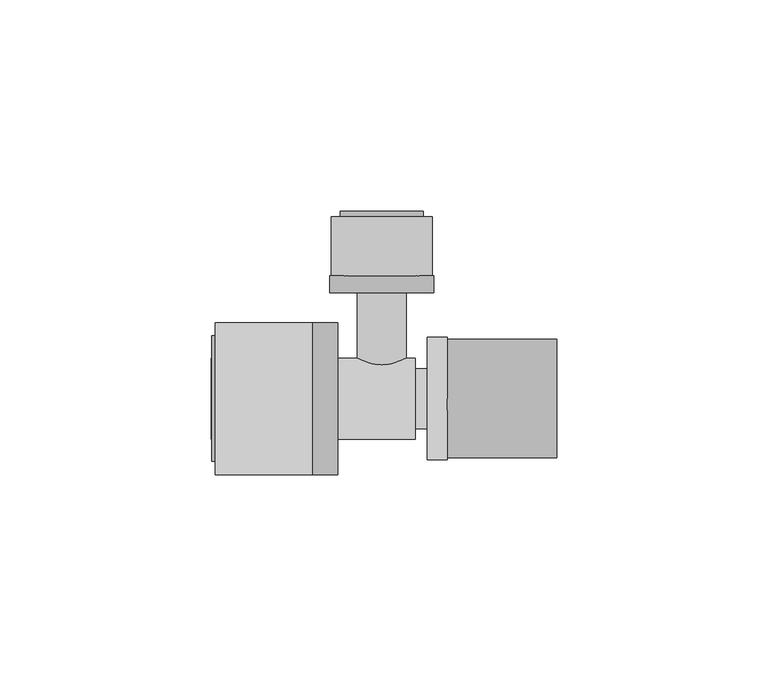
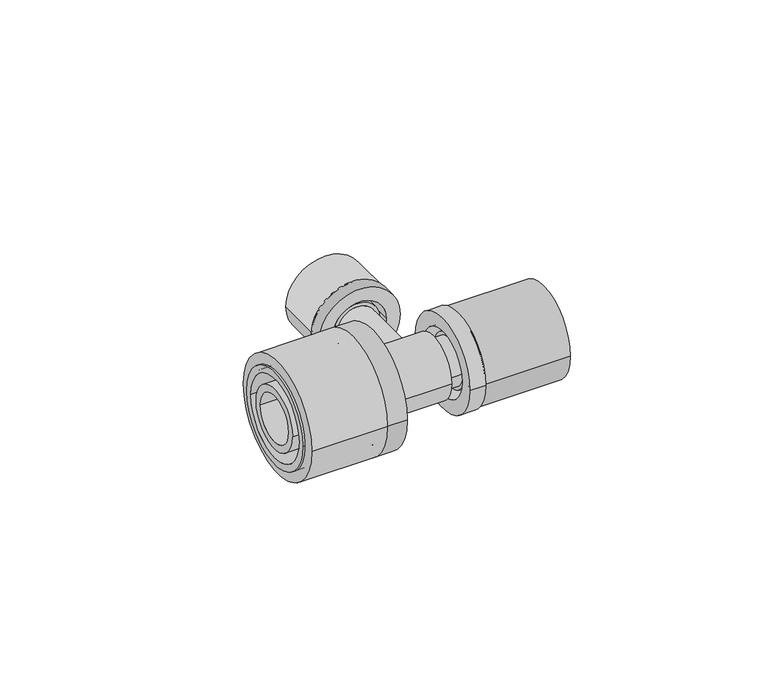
"""IFC4 building model written with IfcOpenShell, lengths in millimetres: pipe fitting geometry, FASTLOC_T-piece_EX+ : FSL T-Piece EX+ AT."""

import ifcopenshell
import ifcopenshell.guid

model = None  # the IFC model being written
_history = None  # IfcOwnerHistory: only IFC2X3 demands one
_inside = {}  # id of a spatial element -> (the spatial element, [elements in it])
_under = {}  # id of a project, library or spatial element -> (it, [spatial elements below it])
_declared = {}  # id of a project -> (the project, [libraries it declares])
_typed = {}  # id of a type object -> (the type object, [elements of that type])
_made_of = {}  # id of a material, layer set ... -> (it, [elements and type objects made of it])


def new_model(schema):
    """Start an empty IFC model of exactly this schema.

    Asked for "IFC4X3", IfcOpenShell would pick the latest addendum, in which some entities
    have other attributes; the version numbers below select the first issue.
    IFC2X3 requires an IfcOwnerHistory on every rooted entity: one is made here for all.
    """
    global model, _history
    if schema == "IFC4X3":
        model = ifcopenshell.file(schema_version=(4, 3, 0, 0))
    else:
        model = ifcopenshell.file(schema=schema)
    _inside.clear()
    _under.clear()
    _declared.clear()
    _typed.clear()
    _made_of.clear()
    _history = None
    if model.schema == "IFC2X3":
        org = make("IfcOrganization", Name="unknown")
        user = make(
            "IfcPersonAndOrganization",
            ThePerson=make("IfcPerson", FamilyName="unknown"),
            TheOrganization=org,
        )
        app = make(
            "IfcApplication",
            ApplicationDeveloper=org,
            Version="unknown",
            ApplicationFullName="unknown",
            ApplicationIdentifier="unknown",
        )
        _history = make(
            "IfcOwnerHistory",
            OwningUser=user,
            OwningApplication=app,
            ChangeAction="ADDED",
            CreationDate=0,
        )
    return model


def make(cls, **values):
    """One entity of the class cls with the attributes given. An attribute that is None is left unset."""
    return model.create_entity(
        cls, **{name: value for name, value in values.items() if value is not None}
    )


def rooted(cls, **values):
    """An entity with a GlobalId (a new one), such as an element, a storey or a relation."""
    return make(cls, GlobalId=ifcopenshell.guid.new(), OwnerHistory=_history, **values)


def si_unit(unit_type, name, prefix=None):
    """IfcSIUnit, for example si_unit("LENGTHUNIT", "METRE", prefix="MILLI")."""
    return make("IfcSIUnit", UnitType=unit_type, Prefix=prefix, Name=name)


def assignment(units):
    """IfcUnitAssignment: the units of a project."""
    return None if units is None else make("IfcUnitAssignment", Units=units)


def point(xyz):
    """IfcCartesianPoint."""
    return None if xyz is None else make("IfcCartesianPoint", Coordinates=xyz)


def direction(xyz):
    """IfcDirection."""
    return None if xyz is None else make("IfcDirection", DirectionRatios=xyz)


def frame(location, z_axis=None, x_axis=None):
    """IfcAxis2Placement3D, a coordinate frame: its origin and axes. An axis left out is left unset."""
    return make(
        "IfcAxis2Placement3D",
        Location=point(location),
        Axis=direction(z_axis),
        RefDirection=direction(x_axis),
    )


def frame_2d(location, x_axis=None):
    """IfcAxis2Placement2D, a coordinate frame in the plane: its origin and x axis."""
    return make(
        "IfcAxis2Placement2D", Location=point(location), RefDirection=direction(x_axis)
    )


def origin():
    """The frame at (0, 0, 0) with its axes left unset."""
    return frame((0.0, 0.0, 0.0))


def origin_2d():
    """The frame at (0, 0) in the plane with its x axis left unset."""
    return frame_2d((0.0, 0.0))


def place(relative_to, where):
    """IfcLocalPlacement: puts the frame where relative to a parent placement (None: the world)."""
    return make(
        "IfcLocalPlacement", PlacementRelTo=relative_to, RelativePlacement=where
    )


def context(
    kind, dimensions, precision=None, world=None, true_north=None, identifier=None
):
    """IfcGeometricRepresentationContext, for example the 3D "Model" context."""
    return make(
        "IfcGeometricRepresentationContext",
        ContextIdentifier=identifier,
        ContextType=kind,
        CoordinateSpaceDimension=dimensions,
        Precision=precision,
        WorldCoordinateSystem=world,
        TrueNorth=true_north,
    )


def project(units=None, contexts=None):
    """IfcProject with its units and contexts."""
    return rooted(
        "IfcProject",
        Name="project",
        RepresentationContexts=contexts,
        UnitsInContext=assignment(units),
    )


def spatial(cls, under=None, at=None, **own):
    """A site, building, storey or space (cls), placed at a placement, below another one or the project."""
    s = rooted(cls, ObjectPlacement=at, **own)
    if under is not None:
        _under.setdefault(under.id(), (under, []))[1].append(s)
    return s


def polyline(points):
    """IfcPolyline through the points."""
    return make("IfcPolyline", Points=[point(p) for p in points])


def circle_curve(where, radius):
    """IfcCircle in the frame where."""
    return make("IfcCircle", Position=where, Radius=radius)


def trimmed(basis, trim1, trim2, sense, master):
    """IfcTrimmedCurve: the piece of a basis curve between two trims."""
    return make(
        "IfcTrimmedCurve",
        BasisCurve=basis,
        Trim1=trim1,
        Trim2=trim2,
        SenseAgreement=sense,
        MasterRepresentation=master,
    )


def segment(curve, same_sense, transition):
    """IfcCompositeCurveSegment."""
    return make(
        "IfcCompositeCurveSegment",
        Transition=transition,
        SameSense=same_sense,
        ParentCurve=curve,
    )


def composite_curve(segments, self_intersect=None):
    """IfcCompositeCurve: segments joined end to end."""
    return make("IfcCompositeCurve", Segments=segments, SelfIntersect=self_intersect)


def outline(outer, holes=None, kind="AREA"):
    """IfcArbitraryClosedProfileDef: a profile drawn as a closed curve; with holes, ...WithVoids."""
    if holes is None:
        return make("IfcArbitraryClosedProfileDef", ProfileType=kind, OuterCurve=outer)
    return make(
        "IfcArbitraryProfileDefWithVoids",
        ProfileType=kind,
        OuterCurve=outer,
        InnerCurves=holes,
    )


def extrude(swept, where, along, depth):
    """IfcExtrudedAreaSolid: the profile swept, set in the frame where, extruded along a direction by depth."""
    return make(
        "IfcExtrudedAreaSolid",
        SweptArea=swept,
        Position=where,
        ExtrudedDirection=direction(along),
        Depth=depth,
    )


def shape(context_of_items, identifier, shape_type, items):
    """IfcShapeRepresentation: the items that make up one representation, for example the "Body"."""
    return make(
        "IfcShapeRepresentation",
        ContextOfItems=context_of_items,
        RepresentationIdentifier=identifier,
        RepresentationType=shape_type,
        Items=items,
    )


def source(mapping_origin, context_of_items, identifier, shape_type, items):
    """IfcRepresentationMap: a shape defined once, which mapped items show again and again."""
    return make(
        "IfcRepresentationMap",
        MappingOrigin=mapping_origin,
        MappedRepresentation=shape(context_of_items, identifier, shape_type, items),
    )


def transform(
    local_origin,
    x_axis=None,
    y_axis=None,
    z_axis=None,
    scale=None,
    scale2=None,
    scale3=None,
    uniform=True,
):
    """IfcCartesianTransformationOperator3D, or its non-uniform kind. x_axis, y_axis, z_axis: its Axis1, 2, 3."""
    if uniform:
        return make(
            "IfcCartesianTransformationOperator3D",
            Axis1=direction(x_axis),
            Axis2=direction(y_axis),
            LocalOrigin=point(local_origin),
            Scale=scale,
            Axis3=direction(z_axis),
        )
    return make(
        "IfcCartesianTransformationOperator3DnonUniform",
        Axis1=direction(x_axis),
        Axis2=direction(y_axis),
        LocalOrigin=point(local_origin),
        Scale=scale,
        Axis3=direction(z_axis),
        Scale2=scale2,
        Scale3=scale3,
    )


def mapped(mapping_source, mapping_target):
    """IfcMappedItem: shows the shape of a source again, moved by a transform."""
    return make(
        "IfcMappedItem", MappingSource=mapping_source, MappingTarget=mapping_target
    )


def made_of(thing, what):
    """Note that an element or type object is made of a material, layer set ...; save() writes the relation."""
    if what is not None:
        _made_of.setdefault(what.id(), (what, []))[1].append(thing)
    return thing


def element(
    cls,
    number,
    at=None,
    inside=None,
    cuts=None,
    type_object=None,
    material=None,
    context=None,
    identifier="Body",
    shape_type=None,
    held_by="IfcProductDefinitionShape",
    body=None,
    shapes=None,
    **own,
):
    """One element of the class cls, such as IfcWall. Its Tag is "e" and its number.

    at: its placement. inside: the storey or other place that contains it. cuts: it is an
    opening in that element (IfcRelVoidsElement). A single representation is given by context,
    identifier, shape_type and body (its items); several are given by shapes. held_by: the class
    of the entity that holds the representations. save() writes the other relations.
    """
    e = rooted(cls, Tag="e%d" % number, ObjectPlacement=at, **own)
    if body is not None:
        shapes = [shape(context, identifier, shape_type, body)]
    if shapes is not None:
        e.Representation = make(held_by, Representations=shapes)
    if inside is not None:
        _inside.setdefault(inside.id(), (inside, []))[1].append(e)
    if cuts is not None:
        rooted(
            "IfcRelVoidsElement", RelatingBuildingElement=cuts, RelatedOpeningElement=e
        )
    if type_object is not None:
        _typed.setdefault(type_object.id(), (type_object, []))[1].append(e)
    return made_of(e, material)


def aggregate(whole, parts):
    """IfcRelAggregates: a whole, such as a stair, and the parts it consists of."""
    return rooted("IfcRelAggregates", RelatingObject=whole, RelatedObjects=parts)


def save(model, path):
    """Write the relations noted so far, then the file.

    IfcRelAggregates (storeys below a building ...), IfcRelContainedInSpatialStructure (elements
    in a storey), IfcRelDefinesByType, IfcRelAssociatesMaterial and IfcRelDeclares: one each for
    every whole, place, type object, material and project.
    """
    for whole, parts in _under.values():
        aggregate(whole, parts)
    for where, things in _inside.values():
        rooted(
            "IfcRelContainedInSpatialStructure",
            RelatedElements=things,
            RelatingStructure=where,
        )
    for kind, things in _typed.values():
        rooted("IfcRelDefinesByType", RelatedObjects=things, RelatingType=kind)
    for what, things in _made_of.values():
        rooted("IfcRelAssociatesMaterial", RelatedObjects=things, RelatingMaterial=what)
    for by, libraries in _declared.values():
        rooted("IfcRelDeclares", RelatingContext=by, RelatedDefinitions=libraries)
    model.write(path)


def plane_surface(at):
    """IfcPlane: the flat surface through the origin of the frame at, square to its z axis."""
    return make("IfcPlane", Position=at)


def cylinder_surface(at, radius):
    """IfcCylindricalSurface: all points at the distance radius from the z axis of the frame at."""
    return make("IfcCylindricalSurface", Position=at, Radius=radius)


def revolved_surface(curve, axis_point, axis_direction):
    """IfcSurfaceOfRevolution: the curve turned about the line through axis_point along axis_direction."""
    return make(
        "IfcSurfaceOfRevolution",
        SweptCurve=make("IfcArbitraryOpenProfileDef", ProfileType="CURVE", Curve=curve),
        AxisPosition=make("IfcAxis1Placement", Location=point(axis_point), Axis=direction(axis_direction)),
    )


def advanced_brep(points, edges, surfaces, faces):
    """IfcAdvancedBrep: a solid bounded by faces that lie on surfaces and meet in shared edges.

    An edge is (start, end): straight between two places in points (the first is 0);
    or (start, end, curve); or (start, end, curve, False) where it runs against its curve.
    A face is (place in surfaces, loops), or (place, loops, False) where it looks against
    its surface's normal. A loop lists edges by number (the first is 1), with a minus sign
    where the edge is run from its end to its start. The first loop is the outer one.
    """
    corners = [point(p) for p in points]
    vertices = [make("IfcVertexPoint", VertexGeometry=c) for c in corners]
    made = []
    for start, end, *more in edges:
        made.append(
            make(
                "IfcEdgeCurve",
                EdgeStart=vertices[start],
                EdgeEnd=vertices[end],
                EdgeGeometry=more[0] if more else make("IfcPolyline", Points=[corners[start], corners[end]]),
                SameSense=more[1] if len(more) > 1 else True,
            )
        )
    hull = []
    for where, loops, *sense in faces:
        bounds = []
        for j, loop in enumerate(loops):
            ring = [make("IfcOrientedEdge", EdgeElement=made[abs(k) - 1], Orientation=k > 0) for k in loop]
            bounds.append(
                make(
                    "IfcFaceOuterBound" if j == 0 else "IfcFaceBound",
                    Bound=make("IfcEdgeLoop", EdgeList=ring),
                    Orientation=True,
                )
            )
        hull.append(make("IfcAdvancedFace", Bounds=bounds, FaceSurface=surfaces[where], SameSense=sense[0] if sense else True))
    return make("IfcAdvancedBrep", Outer=make("IfcClosedShell", CfsFaces=hull))


def pipe_fitting_ef50923d(model_context):
    return source(origin(), model_context, "Body", "SolidModel", [
        extrude(outline(composite_curve([segment(trimmed(circle_curve(origin_2d(), 14.0), [point((-14.0, 0.0))], [point((14.0, 0.0))], False, "CARTESIAN"), True, "CONTINUOUS"), segment(trimmed(circle_curve(origin_2d(), 14.0), [point((14.0, 0.0))], [point((-14.0, 0.0))], False, "CARTESIAN"), True, "CONTINUOUS")], self_intersect=False), holes=[composite_curve([segment(trimmed(circle_curve(origin_2d(), 10.7), [point((-10.7, 0.0))], [point((10.7, 0.0))], True, "CARTESIAN"), True, "CONTINUOUS"), segment(trimmed(circle_curve(origin_2d(), 10.7), [point((10.7, 0.0))], [point((-10.7, 0.0))], True, "CARTESIAN"), True, "CONTINUOUS")], self_intersect=False)]), frame((15.5, 0.0, 0.0), z_axis=(1.0, 0.0, 0.0), x_axis=(0.0, 1.0, 0.0)), (0.0, 0.0, 1.0), 26.0),
        advanced_brep(
        [(15.5, 14.5, 0.0), (15.5, -14.5, 0.0), (10.8, -14.5, 0.0), (10.8, 14.5, 0.0), (32.5, 11.85, 0.0), (32.5, -11.85, 0.0), (15.5, -11.85, 0.0), (15.5, 11.85, 0.0), (10.8, 10.15, 0.0), (10.8, -10.15, 0.0), (32.5, -10.15, 0.0), (32.5, 10.15, 0.0)],
        [
            (0, 1, circle_curve(frame((15.5, 0.0, 0.0), z_axis=(-1.0, 0.0, 0.0), x_axis=(0.0, -1.0, 0.0)), 14.5)),
            (1, 2),
            (2, 3, circle_curve(frame((10.8, 0.0, 0.0), z_axis=(1.0, 0.0, 0.0), x_axis=(0.0, -1.0, 0.0)), 14.5)),
            (3, 0),
            (4, 5, circle_curve(frame((32.5, 0.0, 0.0), z_axis=(-1.0, 0.0, 0.0), x_axis=(0.0, -1.0, 0.0)), 11.85)),
            (5, 6),
            (6, 7, circle_curve(frame((15.5, 0.0, 0.0), z_axis=(1.0, 0.0, 0.0), x_axis=(0.0, -1.0, 0.0)), 11.85)),
            (7, 4),
            (8, 9, circle_curve(frame((10.8, 0.0, 0.0), z_axis=(-1.0, 0.0, 0.0), x_axis=(0.0, -1.0, 0.0)), 10.15)),
            (9, 10),
            (10, 11, circle_curve(frame((32.5, 0.0, 0.0), z_axis=(1.0, 0.0, 0.0), x_axis=(0.0, -1.0, 0.0)), 10.15)),
            (11, 8),
            (1, 0, circle_curve(frame((15.5, 0.0, 0.0), z_axis=(-1.0, 0.0, 0.0), x_axis=(0.0, 1.0, 0.0)), 14.5)),
            (3, 2, circle_curve(frame((10.8, 0.0, 0.0), z_axis=(1.0, 0.0, 0.0), x_axis=(0.0, 1.0, 0.0)), 14.5)),
            (6, 7, circle_curve(frame((15.5, 0.0, 0.0), z_axis=(-1.0, 0.0, 0.0), x_axis=(0.0, 1.0, 0.0)), 11.85)),
            (5, 4, circle_curve(frame((32.5, 0.0, 0.0), z_axis=(-1.0, 0.0, 0.0), x_axis=(0.0, 1.0, 0.0)), 11.85)),
            (10, 11, circle_curve(frame((32.5, 0.0, 0.0), z_axis=(-1.0, 0.0, 0.0), x_axis=(0.0, 1.0, 0.0)), 10.15)),
            (9, 8, circle_curve(frame((10.8, 0.0, 0.0), z_axis=(-1.0, 0.0, 0.0), x_axis=(0.0, 1.0, 0.0)), 10.15)),
        ],
        [
            cylinder_surface(frame((10.8, 0.0, 0.0), z_axis=(1.0, 0.0, 0.0), x_axis=(0.0, -1.0, 0.0)), 14.5),
            cylinder_surface(frame((10.8, 0.0, 0.0), z_axis=(1.0, 0.0, 0.0), x_axis=(0.0, -1.0, 0.0)), 11.85),
            revolved_surface(polyline([(32.5, -10.15, 0.0), (10.8, -10.15, 0.0)]), (10.8, 0.0, 0.0), (1.0, 0.0, 0.0)),
            cylinder_surface(frame((10.8, 0.0, 0.0), z_axis=(1.0, 0.0, 0.0), x_axis=(0.0, 1.0, 0.0)), 14.5),
            plane_surface(frame((15.5, 0.0, 0.0), z_axis=(1.0, 0.0, 0.0), x_axis=(0.0, 1.0, 0.0))),
            cylinder_surface(frame((10.8, 0.0, 0.0), z_axis=(1.0, 0.0, 0.0), x_axis=(0.0, 1.0, 0.0)), 11.85),
            plane_surface(frame((32.5, 0.0, 0.0), z_axis=(1.0, 0.0, 0.0), x_axis=(0.0, 1.0, 0.0))),
            revolved_surface(polyline([(32.5, 10.15, 0.0), (10.8, 10.15, 0.0)]), (10.8, 0.0, 0.0), (1.0, 0.0, 0.0)),
            plane_surface(frame((10.8, 0.0, 0.0), z_axis=(-1.0, 0.0, 0.0), x_axis=(0.0, 1.0, 0.0))),
        ],
        [
            (0, [[1, 2, 3, 4]]),
            (1, [[5, 6, 7, 8]]),
            (2, [[9, 10, 11, 12]]),
            (3, [[13, -4, 14, -2]]),
            (4, [[-13, -1], [15, -7]]),
            (5, [[16, -8, -15, -6]]),
            (6, [[-16, -5], [17, -11]]),
            (7, [[18, -12, -17, -10]]),
            (8, [[-14, -3], [-18, -9]]),
        ],
    ),
        extrude(outline(composite_curve([segment(trimmed(circle_curve(origin_2d(), 18.0), [point((18.0, 0.0))], [point((-18.0, 0.0))], False, "CARTESIAN"), True, "CONTINUOUS"), segment(trimmed(circle_curve(origin_2d(), 18.0), [point((-18.0, 0.0))], [point((18.0, 0.0))], False, "CARTESIAN"), True, "CONTINUOUS")], self_intersect=False), holes=[composite_curve([segment(trimmed(circle_curve(origin_2d(), 13.5), [point((13.5, 0.0))], [point((-13.5, 0.0))], True, "CARTESIAN"), True, "CONTINUOUS"), segment(trimmed(circle_curve(origin_2d(), 13.5), [point((-13.5, 0.0))], [point((13.5, 0.0))], True, "CARTESIAN"), True, "CONTINUOUS")], self_intersect=False)]), frame((-39.4, 0.0, 0.0), z_axis=(1.0, 0.0, 0.0), x_axis=(0.0, 1.0, 0.0)), (0.0, 0.0, 1.0), 23.0),
        advanced_brep(
        [(-16.4, -18.0, 0.0), (-16.4, 18.0, 0.0), (-10.4, 18.0, 0.0), (-10.4, -18.0, 0.0), (-40.2, -14.85, 0.0), (-40.2, 14.85, 0.0), (-16.4, 14.85, 0.0), (-16.4, -14.85, 0.0), (-10.4, -12.65, 0.0), (-10.4, 12.65, 0.0), (-40.2, 12.65, 0.0), (-40.2, -12.65, 0.0)],
        [
            (0, 1, circle_curve(frame((-16.4, 0.0, 0.0), z_axis=(1.0, 0.0, 0.0), x_axis=(0.0, 1.0, 0.0)), 18.0)),
            (1, 2),
            (2, 3, circle_curve(frame((-10.4, 0.0, 0.0), z_axis=(-1.0, 0.0, 0.0), x_axis=(0.0, 1.0, 0.0)), 18.0)),
            (3, 0),
            (4, 5, circle_curve(frame((-40.2, 0.0, 0.0), z_axis=(1.0, 0.0, 0.0), x_axis=(0.0, 1.0, 0.0)), 14.85)),
            (5, 6),
            (6, 7, circle_curve(frame((-16.4, 0.0, 0.0), z_axis=(-1.0, 0.0, 0.0), x_axis=(0.0, 1.0, 0.0)), 14.85)),
            (7, 4),
            (8, 9, circle_curve(frame((-10.4, 0.0, 0.0), z_axis=(1.0, 0.0, 0.0), x_axis=(0.0, 1.0, 0.0)), 12.65)),
            (9, 10),
            (10, 11, circle_curve(frame((-40.2, 0.0, 0.0), z_axis=(-1.0, 0.0, 0.0), x_axis=(0.0, 1.0, 0.0)), 12.65)),
            (11, 8),
            (1, 0, circle_curve(frame((-16.4, 0.0, 0.0), z_axis=(1.0, 0.0, 0.0), x_axis=(0.0, -1.0, 0.0)), 18.0)),
            (3, 2, circle_curve(frame((-10.4, 0.0, 0.0), z_axis=(-1.0, 0.0, 0.0), x_axis=(0.0, -1.0, 0.0)), 18.0)),
            (6, 7, circle_curve(frame((-16.4, 0.0, 0.0), z_axis=(1.0, 0.0, 0.0), x_axis=(0.0, -1.0, 0.0)), 14.85)),
            (5, 4, circle_curve(frame((-40.2, 0.0, 0.0), z_axis=(1.0, 0.0, 0.0), x_axis=(0.0, -1.0, 0.0)), 14.85)),
            (10, 11, circle_curve(frame((-40.2, 0.0, 0.0), z_axis=(1.0, 0.0, 0.0), x_axis=(0.0, -1.0, 0.0)), 12.65)),
            (9, 8, circle_curve(frame((-10.4, 0.0, 0.0), z_axis=(1.0, 0.0, 0.0), x_axis=(0.0, -1.0, 0.0)), 12.65)),
        ],
        [
            cylinder_surface(frame((-10.4, 0.0, 0.0), z_axis=(-1.0, 0.0, 0.0), x_axis=(0.0, 1.0, 0.0)), 18.0),
            cylinder_surface(frame((-10.4, 0.0, 0.0), z_axis=(-1.0, 0.0, 0.0), x_axis=(0.0, 1.0, 0.0)), 14.85),
            revolved_surface(polyline([(-40.2, 12.65, 0.0), (-10.4, 12.65, 0.0)]), (-10.4, 0.0, 0.0), (-1.0, 0.0, 0.0)),
            cylinder_surface(frame((-10.4, 0.0, 0.0), z_axis=(-1.0, 0.0, 0.0), x_axis=(0.0, -1.0, 0.0)), 18.0),
            plane_surface(frame((-16.4, 0.0, 0.0), z_axis=(-1.0, 0.0, 0.0), x_axis=(0.0, -1.0, 0.0))),
            cylinder_surface(frame((-10.4, 0.0, 0.0), z_axis=(-1.0, 0.0, 0.0), x_axis=(0.0, -1.0, 0.0)), 14.85),
            plane_surface(frame((-40.2, 0.0, 0.0), z_axis=(-1.0, 0.0, 0.0), x_axis=(0.0, -1.0, 0.0))),
            revolved_surface(polyline([(-40.2, -12.65, 0.0), (-10.4, -12.65, 0.0)]), (-10.4, 0.0, 0.0), (-1.0, 0.0, 0.0)),
            plane_surface(frame((-10.4, 0.0, 0.0), z_axis=(1.0, 0.0, 0.0), x_axis=(0.0, -1.0, 0.0))),
        ],
        [
            (0, [[1, 2, 3, 4]]),
            (1, [[5, 6, 7, 8]]),
            (2, [[9, 10, 11, 12]]),
            (3, [[13, -4, 14, -2]]),
            (4, [[-13, -1], [15, -7]]),
            (5, [[16, -8, -15, -6]]),
            (6, [[-16, -5], [17, -11]]),
            (7, [[18, -12, -17, -10]]),
            (8, [[-14, -3], [-18, -9]]),
        ],
    ),
        extrude(outline(composite_curve([segment(trimmed(circle_curve(origin_2d(), 12.0), [point((0.0, 12.0))], [point((0.0, -12.0))], False, "CARTESIAN"), True, "CONTINUOUS"), segment(trimmed(circle_curve(origin_2d(), 12.0), [point((0.0, -12.0))], [point((0.0, 12.0))], False, "CARTESIAN"), True, "CONTINUOUS")], self_intersect=False), holes=[composite_curve([segment(trimmed(circle_curve(origin_2d(), 8.85), [point((0.0, 8.85))], [point((0.0, -8.85))], True, "CARTESIAN"), True, "CONTINUOUS"), segment(trimmed(circle_curve(origin_2d(), 8.85), [point((0.0, -8.85))], [point((0.0, 8.85))], True, "CARTESIAN"), True, "CONTINUOUS")], self_intersect=False)]), frame((0.0, 29.1, 0.0), z_axis=(0.0, 1.0, 0.0), x_axis=(0.0, 0.0, 1.0)), (0.0, 0.0, 1.0), 14.0),
        advanced_brep(
        [(-12.35, 29.1, 0.0), (12.35, 29.1, 0.0), (12.35, 25.1, 0.0), (-12.35, 25.1, 0.0), (-9.85, 44.4, 0.0), (9.85, 44.4, 0.0), (9.85, 29.1, 0.0), (-9.85, 29.1, 0.0), (-8.15, 25.1, 0.0), (8.15, 25.1, 0.0), (8.15, 44.4, 0.0), (-8.15, 44.4, 0.0)],
        [
            (0, 1, circle_curve(frame((0.0, 29.1, 0.0), z_axis=(0.0, -1.0, 0.0), x_axis=(1.0, 0.0, 0.0)), 12.35)),
            (1, 2),
            (2, 3, circle_curve(frame((0.0, 25.1, 0.0), z_axis=(0.0, 1.0, 0.0), x_axis=(1.0, 0.0, 0.0)), 12.35)),
            (3, 0),
            (4, 5, circle_curve(frame((0.0, 44.4, 0.0), z_axis=(0.0, -1.0, 0.0), x_axis=(1.0, 0.0, 0.0)), 9.85)),
            (5, 6),
            (6, 7, circle_curve(frame((0.0, 29.1, 0.0), z_axis=(0.0, 1.0, 0.0), x_axis=(1.0, 0.0, 0.0)), 9.85)),
            (7, 4),
            (8, 9, circle_curve(frame((0.0, 25.1, 0.0), z_axis=(0.0, -1.0, 0.0), x_axis=(1.0, 0.0, 0.0)), 8.15)),
            (9, 10),
            (10, 11, circle_curve(frame((0.0, 44.4, 0.0), z_axis=(0.0, 1.0, 0.0), x_axis=(1.0, 0.0, 0.0)), 8.15)),
            (11, 8),
            (1, 0, circle_curve(frame((0.0, 29.1, 0.0), z_axis=(0.0, -1.0, 0.0), x_axis=(-1.0, 0.0, 0.0)), 12.35)),
            (3, 2, circle_curve(frame((0.0, 25.1, 0.0), z_axis=(0.0, 1.0, 0.0), x_axis=(-1.0, 0.0, 0.0)), 12.35)),
            (6, 7, circle_curve(frame((0.0, 29.1, 0.0), z_axis=(0.0, -1.0, 0.0), x_axis=(-1.0, 0.0, 0.0)), 9.85)),
            (5, 4, circle_curve(frame((0.0, 44.4, 0.0), z_axis=(0.0, -1.0, 0.0), x_axis=(-1.0, 0.0, 0.0)), 9.85)),
            (10, 11, circle_curve(frame((0.0, 44.4, 0.0), z_axis=(0.0, -1.0, 0.0), x_axis=(-1.0, 0.0, 0.0)), 8.15)),
            (9, 8, circle_curve(frame((0.0, 25.1, 0.0), z_axis=(0.0, -1.0, 0.0), x_axis=(-1.0, 0.0, 0.0)), 8.15)),
        ],
        [
            cylinder_surface(frame((0.0, 25.1, 0.0), z_axis=(0.0, 1.0, 0.0), x_axis=(1.0, 0.0, 0.0)), 12.35),
            cylinder_surface(frame((0.0, 25.1, 0.0), z_axis=(0.0, 1.0, 0.0), x_axis=(1.0, 0.0, 0.0)), 9.85),
            revolved_surface(polyline([(8.15, 44.4, 0.0), (8.15, 25.1, 0.0)]), (0.0, 25.1, 0.0), (0.0, 1.0, 0.0)),
            cylinder_surface(frame((0.0, 25.1, 0.0), z_axis=(0.0, 1.0, 0.0), x_axis=(-1.0, 0.0, 0.0)), 12.35),
            plane_surface(frame((0.0, 29.1, 0.0), z_axis=(0.0, 1.0, 0.0), x_axis=(-1.0, 0.0, 0.0))),
            cylinder_surface(frame((0.0, 25.1, 0.0), z_axis=(0.0, 1.0, 0.0), x_axis=(-1.0, 0.0, 0.0)), 9.85),
            plane_surface(frame((0.0, 44.4, 0.0), z_axis=(0.0, 1.0, 0.0), x_axis=(-1.0, 0.0, 0.0))),
            revolved_surface(polyline([(-8.15, 44.4, 0.0), (-8.15, 25.1, 0.0)]), (0.0, 25.1, 0.0), (0.0, 1.0, 0.0)),
            plane_surface(frame((0.0, 25.1, 0.0), z_axis=(0.0, -1.0, 0.0), x_axis=(-1.0, 0.0, 0.0))),
        ],
        [
            (0, [[1, 2, 3, 4]]),
            (1, [[5, 6, 7, 8]]),
            (2, [[9, 10, 11, 12]]),
            (3, [[13, -4, 14, -2]]),
            (4, [[-13, -1], [15, -7]]),
            (5, [[16, -8, -15, -6]]),
            (6, [[-16, -5], [17, -11]]),
            (7, [[18, -12, -17, -10]]),
            (8, [[-14, -3], [-18, -9]]),
        ],
    ),
        advanced_brep(
        [(12.83, 7.1, 0.0), (12.83, -7.1, 0.0), (8.0, -7.1, 0.0), (8.0, 7.1, 0.0), (15.5, 8.15, 0.0), (15.5, -8.15, 0.0), (12.83, -8.15, 0.0), (12.83, 8.15, 0.0), (32.9, 7.1, 0.0), (32.9, -7.1, 0.0), (15.5, -7.1, 0.0), (15.5, 7.1, 0.0), (6.0, 5.1, 0.0), (6.0, -5.1, 0.0), (32.9, -5.1, 0.0), (32.9, 5.1, 0.0), (-40.4, 7.35, 0.0), (-40.4, -7.35, 0.0), (6.0, -7.35, 0.0), (6.0, 7.35, 0.0), (-16.4, 9.6, 0.0), (-16.4, -9.6, 0.0), (-40.4, -9.6, 0.0), (-40.4, 9.6, 0.0), (-13.6, 11.1, 0.0), (-13.6, -11.1, 0.0), (-16.4, -11.1, 0.0), (-16.4, 11.1, 0.0), (8.0, 9.6, 0.0), (8.0, -9.6, 0.0), (-13.6, -9.6, 0.0), (-13.6, 9.6, 0.0)],
        [
            (0, 1, circle_curve(frame((12.83, 0.0, 0.0), z_axis=(-1.0, 0.0, 0.0), x_axis=(0.0, -1.0, 0.0)), 7.1)),
            (1, 2),
            (2, 3, circle_curve(frame((8.0, 0.0, 0.0), z_axis=(1.0, 0.0, 0.0), x_axis=(0.0, -1.0, 0.0)), 7.1)),
            (3, 0),
            (4, 5, circle_curve(frame((15.5, 0.0, 0.0), z_axis=(-1.0, 0.0, 0.0), x_axis=(0.0, -1.0, 0.0)), 8.15)),
            (5, 6),
            (6, 7, circle_curve(frame((12.83, 0.0, 0.0), z_axis=(1.0, 0.0, 0.0), x_axis=(0.0, -1.0, 0.0)), 8.15)),
            (7, 4),
            (8, 9, circle_curve(frame((32.9, 0.0, 0.0), z_axis=(-1.0, 0.0, 0.0), x_axis=(0.0, -1.0, 0.0)), 7.1)),
            (9, 10),
            (10, 11, circle_curve(frame((15.5, 0.0, 0.0), z_axis=(1.0, 0.0, 0.0), x_axis=(0.0, -1.0, 0.0)), 7.1)),
            (11, 8),
            (12, 13, circle_curve(frame((6.0, 0.0, 0.0), z_axis=(-1.0, 0.0, 0.0), x_axis=(0.0, -1.0, 0.0)), 5.1)),
            (13, 14),
            (14, 15, circle_curve(frame((32.9, 0.0, 0.0), z_axis=(1.0, 0.0, 0.0), x_axis=(0.0, -1.0, 0.0)), 5.1)),
            (15, 12),
            (16, 17, circle_curve(frame((-40.4, 0.0, 0.0), z_axis=(-1.0, 0.0, 0.0), x_axis=(0.0, -1.0, 0.0)), 7.35)),
            (17, 18),
            (18, 19, circle_curve(frame((6.0, 0.0, 0.0), z_axis=(1.0, 0.0, 0.0), x_axis=(0.0, -1.0, 0.0)), 7.35)),
            (19, 16),
            (20, 21, circle_curve(frame((-16.4, 0.0, 0.0), z_axis=(-1.0, 0.0, 0.0), x_axis=(0.0, -1.0, 0.0)), 9.6)),
            (21, 22),
            (22, 23, circle_curve(frame((-40.4, 0.0, 0.0), z_axis=(1.0, 0.0, 0.0), x_axis=(0.0, -1.0, 0.0)), 9.6)),
            (23, 20),
            (24, 25, circle_curve(frame((-13.6, 0.0, 0.0), z_axis=(-1.0, 0.0, 0.0), x_axis=(0.0, -1.0, 0.0)), 11.1)),
            (25, 26),
            (26, 27, circle_curve(frame((-16.4, 0.0, 0.0), z_axis=(1.0, 0.0, 0.0), x_axis=(0.0, -1.0, 0.0)), 11.1)),
            (27, 24),
            (28, 29, circle_curve(frame((8.0, 0.0, 0.0), z_axis=(-1.0, 0.0, 0.0), x_axis=(0.0, -1.0, 0.0)), 9.6)),
            (29, 30),
            (30, 31, circle_curve(frame((-13.6, 0.0, 0.0), z_axis=(1.0, 0.0, 0.0), x_axis=(0.0, -1.0, 0.0)), 9.6)),
            (31, 28),
            (28, 29, circle_curve(frame((8.0, 0.0, 0.0), z_axis=(1.0, 0.0, 0.0), x_axis=(0.0, 1.0, 0.0)), 9.6)),
            (2, 3, circle_curve(frame((8.0, 0.0, 0.0), z_axis=(-1.0, 0.0, 0.0), x_axis=(0.0, 1.0, 0.0)), 7.1)),
            (1, 0, circle_curve(frame((12.83, 0.0, 0.0), z_axis=(-1.0, 0.0, 0.0), x_axis=(0.0, 1.0, 0.0)), 7.1)),
            (6, 7, circle_curve(frame((12.83, 0.0, 0.0), z_axis=(-1.0, 0.0, 0.0), x_axis=(0.0, 1.0, 0.0)), 8.15)),
            (5, 4, circle_curve(frame((15.5, 0.0, 0.0), z_axis=(-1.0, 0.0, 0.0), x_axis=(0.0, 1.0, 0.0)), 8.15)),
            (10, 11, circle_curve(frame((15.5, 0.0, 0.0), z_axis=(-1.0, 0.0, 0.0), x_axis=(0.0, 1.0, 0.0)), 7.1)),
            (9, 8, circle_curve(frame((32.9, 0.0, 0.0), z_axis=(-1.0, 0.0, 0.0), x_axis=(0.0, 1.0, 0.0)), 7.1)),
            (14, 15, circle_curve(frame((32.9, 0.0, 0.0), z_axis=(-1.0, 0.0, 0.0), x_axis=(0.0, 1.0, 0.0)), 5.1)),
            (13, 12, circle_curve(frame((6.0, 0.0, 0.0), z_axis=(-1.0, 0.0, 0.0), x_axis=(0.0, 1.0, 0.0)), 5.1)),
            (18, 19, circle_curve(frame((6.0, 0.0, 0.0), z_axis=(-1.0, 0.0, 0.0), x_axis=(0.0, 1.0, 0.0)), 7.35)),
            (17, 16, circle_curve(frame((-40.4, 0.0, 0.0), z_axis=(-1.0, 0.0, 0.0), x_axis=(0.0, 1.0, 0.0)), 7.35)),
            (22, 23, circle_curve(frame((-40.4, 0.0, 0.0), z_axis=(-1.0, 0.0, 0.0), x_axis=(0.0, 1.0, 0.0)), 9.6)),
            (21, 20, circle_curve(frame((-16.4, 0.0, 0.0), z_axis=(-1.0, 0.0, 0.0), x_axis=(0.0, 1.0, 0.0)), 9.6)),
            (26, 27, circle_curve(frame((-16.4, 0.0, 0.0), z_axis=(-1.0, 0.0, 0.0), x_axis=(0.0, 1.0, 0.0)), 11.1)),
            (25, 24, circle_curve(frame((-13.6, 0.0, 0.0), z_axis=(-1.0, 0.0, 0.0), x_axis=(0.0, 1.0, 0.0)), 11.1)),
            (30, 31, circle_curve(frame((-13.6, 0.0, 0.0), z_axis=(-1.0, 0.0, 0.0), x_axis=(0.0, 1.0, 0.0)), 9.6)),
        ],
        [
            cylinder_surface(frame((0.0, 0.0, 0.0), z_axis=(1.0, 0.0, 0.0), x_axis=(0.0, -1.0, 0.0)), 7.1),
            cylinder_surface(frame((0.0, 0.0, 0.0), z_axis=(1.0, 0.0, 0.0), x_axis=(0.0, -1.0, 0.0)), 8.15),
            revolved_surface(polyline([(32.9, -5.1, 0.0), (6.0, -5.1, 0.0)]), (0.0, 0.0, 0.0), (1.0, 0.0, 0.0)),
            revolved_surface(polyline([(6.0, -7.35, 0.0), (-40.4, -7.35, 0.0)]), (0.0, 0.0, 0.0), (1.0, 0.0, 0.0)),
            cylinder_surface(frame((0.0, 0.0, 0.0), z_axis=(1.0, 0.0, 0.0), x_axis=(0.0, -1.0, 0.0)), 9.6),
            cylinder_surface(frame((0.0, 0.0, 0.0), z_axis=(1.0, 0.0, 0.0), x_axis=(0.0, -1.0, 0.0)), 11.1),
            plane_surface(frame((8.0, 0.0, 0.0), z_axis=(1.0, 0.0, 0.0), x_axis=(0.0, 1.0, 0.0))),
            cylinder_surface(frame((0.0, 0.0, 0.0), z_axis=(1.0, 0.0, 0.0), x_axis=(0.0, 1.0, 0.0)), 7.1),
            plane_surface(frame((12.83, 0.0, 0.0), z_axis=(-1.0, 0.0, 0.0), x_axis=(0.0, 1.0, 0.0))),
            cylinder_surface(frame((0.0, 0.0, 0.0), z_axis=(1.0, 0.0, 0.0), x_axis=(0.0, 1.0, 0.0)), 8.15),
            plane_surface(frame((15.5, 0.0, 0.0), z_axis=(1.0, 0.0, 0.0), x_axis=(0.0, 1.0, 0.0))),
            plane_surface(frame((32.9, 0.0, 0.0), z_axis=(1.0, 0.0, 0.0), x_axis=(0.0, 1.0, 0.0))),
            revolved_surface(polyline([(32.9, 5.1, 0.0), (6.0, 5.1, 0.0)]), (0.0, 0.0, 0.0), (1.0, 0.0, 0.0)),
            plane_surface(frame((6.0, 0.0, 0.0), z_axis=(-1.0, 0.0, 0.0), x_axis=(0.0, 1.0, 0.0))),
            revolved_surface(polyline([(6.0, 7.35, 0.0), (-40.4, 7.35, 0.0)]), (0.0, 0.0, 0.0), (1.0, 0.0, 0.0)),
            plane_surface(frame((-40.4, 0.0, 0.0), z_axis=(-1.0, 0.0, 0.0), x_axis=(0.0, 1.0, 0.0))),
            cylinder_surface(frame((0.0, 0.0, 0.0), z_axis=(1.0, 0.0, 0.0), x_axis=(0.0, 1.0, 0.0)), 9.6),
            plane_surface(frame((-16.4, 0.0, 0.0), z_axis=(-1.0, 0.0, 0.0), x_axis=(0.0, 1.0, 0.0))),
            cylinder_surface(frame((0.0, 0.0, 0.0), z_axis=(1.0, 0.0, 0.0), x_axis=(0.0, 1.0, 0.0)), 11.1),
            plane_surface(frame((-13.6, 0.0, 0.0), z_axis=(1.0, 0.0, 0.0), x_axis=(0.0, 1.0, 0.0))),
        ],
        [
            (0, [[1, 2, 3, 4]]),
            (1, [[5, 6, 7, 8]]),
            (0, [[9, 10, 11, 12]]),
            (2, [[13, 14, 15, 16]]),
            (3, [[17, 18, 19, 20]]),
            (4, [[21, 22, 23, 24]]),
            (5, [[25, 26, 27, 28]]),
            (4, [[29, 30, 31, 32]]),
            (6, [[33, -29], [34, -3]]),
            (7, [[35, -4, -34, -2]]),
            (8, [[36, -7], [-35, -1]]),
            (9, [[37, -8, -36, -6]]),
            (10, [[-37, -5], [38, -11]]),
            (7, [[39, -12, -38, -10]]),
            (11, [[-39, -9], [40, -15]]),
            (12, [[41, -16, -40, -14]]),
            (13, [[42, -19], [-41, -13]]),
            (14, [[43, -20, -42, -18]]),
            (15, [[44, -23], [-43, -17]]),
            (16, [[45, -24, -44, -22]]),
            (17, [[46, -27], [-45, -21]]),
            (18, [[47, -28, -46, -26]]),
            (19, [[-47, -25], [48, -31]]),
            (16, [[-33, -32, -48, -30]]),
        ],
    ),
        advanced_brep(
        [(3.95, 44.1, 0.0), (-3.95, 44.1, 0.0), (-3.95, 0.0, 0.0), (3.95, 0.0, 0.0), (5.8, 0.0, 0.0), (-5.8, 0.0, 0.0), (-5.8, 26.39, 0.0), (5.8, 26.39, 0.0), (6.9, 26.39, 0.0), (-6.9, 26.39, 0.0), (-6.9, 29.1, 0.0), (6.9, 29.1, 0.0), (5.8, 29.1, 0.0), (-5.8, 29.1, 0.0), (-5.8, 44.1, 0.0), (5.8, 44.1, 0.0)],
        [
            (0, 1, circle_curve(frame((0.0, 44.1, 0.0), z_axis=(0.0, 1.0, 0.0), x_axis=(-1.0, 0.0, 0.0)), 3.95)),
            (1, 2),
            (2, 3, circle_curve(frame((0.0, 0.0, 0.0), z_axis=(0.0, -1.0, 0.0), x_axis=(-1.0, 0.0, 0.0)), 3.95)),
            (3, 0),
            (4, 5, circle_curve(frame((0.0, 0.0, 0.0), z_axis=(0.0, 1.0, 0.0), x_axis=(-1.0, 0.0, 0.0)), 5.8)),
            (5, 6),
            (6, 7, circle_curve(frame((0.0, 26.39, 0.0), z_axis=(0.0, -1.0, 0.0), x_axis=(-1.0, 0.0, 0.0)), 5.8)),
            (7, 4),
            (8, 9, circle_curve(frame((0.0, 26.39, 0.0), z_axis=(0.0, 1.0, 0.0), x_axis=(-1.0, 0.0, 0.0)), 6.9)),
            (9, 10),
            (10, 11, circle_curve(frame((0.0, 29.1, 0.0), z_axis=(0.0, -1.0, 0.0), x_axis=(-1.0, 0.0, 0.0)), 6.9)),
            (11, 8),
            (12, 13, circle_curve(frame((0.0, 29.1, 0.0), z_axis=(0.0, 1.0, 0.0), x_axis=(-1.0, 0.0, 0.0)), 5.8)),
            (13, 14),
            (14, 15, circle_curve(frame((0.0, 44.1, 0.0), z_axis=(0.0, -1.0, 0.0), x_axis=(-1.0, 0.0, 0.0)), 5.8)),
            (15, 12),
            (1, 0, circle_curve(frame((0.0, 44.1, 0.0), z_axis=(0.0, 1.0, 0.0), x_axis=(1.0, 0.0, 0.0)), 3.95)),
            (3, 2, circle_curve(frame((0.0, 0.0, 0.0), z_axis=(0.0, -1.0, 0.0), x_axis=(1.0, 0.0, 0.0)), 3.95)),
            (4, 5, circle_curve(frame((0.0, 0.0, 0.0), z_axis=(0.0, -1.0, 0.0), x_axis=(1.0, 0.0, 0.0)), 5.8)),
            (7, 6, circle_curve(frame((0.0, 26.39, 0.0), z_axis=(0.0, -1.0, 0.0), x_axis=(1.0, 0.0, 0.0)), 5.8)),
            (8, 9, circle_curve(frame((0.0, 26.39, 0.0), z_axis=(0.0, -1.0, 0.0), x_axis=(1.0, 0.0, 0.0)), 6.9)),
            (11, 10, circle_curve(frame((0.0, 29.1, 0.0), z_axis=(0.0, -1.0, 0.0), x_axis=(1.0, 0.0, 0.0)), 6.9)),
            (12, 13, circle_curve(frame((0.0, 29.1, 0.0), z_axis=(0.0, -1.0, 0.0), x_axis=(1.0, 0.0, 0.0)), 5.8)),
            (15, 14, circle_curve(frame((0.0, 44.1, 0.0), z_axis=(0.0, -1.0, 0.0), x_axis=(1.0, 0.0, 0.0)), 5.8)),
        ],
        [
            revolved_surface(polyline([(-3.95, 0.0, 0.0), (-3.95, 44.1, 0.0)]), (0.0, 0.0, 0.0), (0.0, -1.0, 0.0)),
            cylinder_surface(frame((0.0, 0.0, 0.0), z_axis=(0.0, -1.0, 0.0), x_axis=(-1.0, 0.0, 0.0)), 5.8),
            cylinder_surface(frame((0.0, 0.0, 0.0), z_axis=(0.0, -1.0, 0.0), x_axis=(-1.0, 0.0, 0.0)), 6.9),
            revolved_surface(polyline([(3.95, 0.0, 0.0), (3.95, 44.1, 0.0)]), (0.0, 0.0, 0.0), (0.0, -1.0, 0.0)),
            plane_surface(frame((0.0, 0.0, 0.0), z_axis=(0.0, -1.0, 0.0), x_axis=(1.0, 0.0, 0.0))),
            cylinder_surface(frame((0.0, 0.0, 0.0), z_axis=(0.0, -1.0, 0.0), x_axis=(1.0, 0.0, 0.0)), 5.8),
            plane_surface(frame((0.0, 26.39, 0.0), z_axis=(0.0, -1.0, 0.0), x_axis=(1.0, 0.0, 0.0))),
            cylinder_surface(frame((0.0, 0.0, 0.0), z_axis=(0.0, -1.0, 0.0), x_axis=(1.0, 0.0, 0.0)), 6.9),
            plane_surface(frame((0.0, 29.1, 0.0), z_axis=(0.0, 1.0, 0.0), x_axis=(1.0, 0.0, 0.0))),
            plane_surface(frame((0.0, 44.1, 0.0), z_axis=(0.0, 1.0, 0.0), x_axis=(1.0, 0.0, 0.0))),
        ],
        [
            (0, [[1, 2, 3, 4]]),
            (1, [[5, 6, 7, 8]]),
            (2, [[9, 10, 11, 12]]),
            (1, [[13, 14, 15, 16]]),
            (3, [[17, -4, 18, -2]]),
            (4, [[19, -5], [-18, -3]]),
            (5, [[-19, -8, 20, -6]]),
            (6, [[21, -9], [-20, -7]]),
            (7, [[-21, -12, 22, -10]]),
            (8, [[-22, -11], [23, -13]]),
            (5, [[-23, -16, 24, -14]]),
            (9, [[-24, -15], [-17, -1]]),
        ],
    ),
    ])


if __name__ == "__main__":
    model = new_model("IFC4")
    model_context = context("Model", 3, world=origin())
    ifc_project = project(units=[si_unit("LENGTHUNIT", "METRE", prefix="MILLI")], contexts=[model_context])
    site = spatial("IfcSite", under=ifc_project)
    building = spatial("IfcBuilding", under=site)
    placement = place(None, origin())
    pipe_fitting_shape = pipe_fitting_ef50923d(model_context)
    element("IfcPipeFitting", 1, ObjectType="FASTLOC_T-piece_EX+ : FSL T-Piece EX+ AT", at=placement, inside=building, context=model_context, shape_type="MappedRepresentation", body=[
        mapped(pipe_fitting_shape, transform((0.0, 0.0, 0.0), x_axis=(1.0, 0.0, 0.0), y_axis=(0.0, 1.0, 0.0), z_axis=(0.0, 0.0, 1.0))),
    ])
    save(model, "model.ifc")
